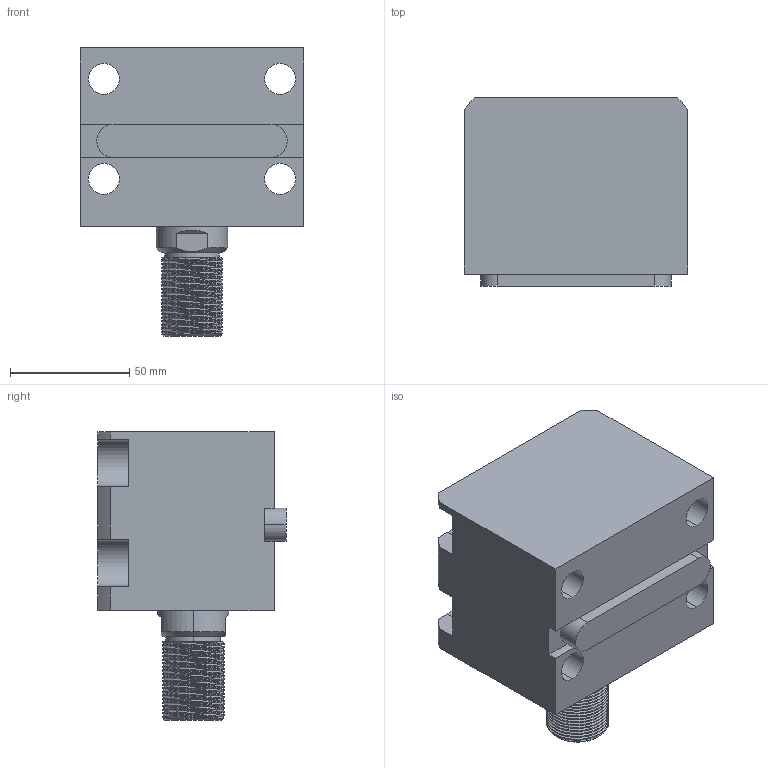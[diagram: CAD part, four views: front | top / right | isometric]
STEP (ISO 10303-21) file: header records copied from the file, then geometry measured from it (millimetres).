
FILE_DESCRIPTION (( 'STEP AP203' ), '1' );
FILE_NAME ('CHTB-LA50-15W.STEP', '2018-05-18T00:20:22', ( '' ), ( '' ), 'SwSTEP 2.0', 'SolidWorks 2015', '' );
FILE_SCHEMA (( 'CONFIG_CONTROL_DESIGN' ));
Length unit declared in the file: millimetre
Products named in the file (4): CHTB-LA50-15W; 活塞杆LA50-15W; 掛极LA50-15W; CHTM-SDMA50QG
Assembly tree (3 placements, depth 2):
  CHTB-LA50-15W
    掛极LA50-15W
    CHTM-SDMA50QG
    活塞杆LA50-15W
Bounding box: 94 x 79 x 121 mm (x, y, z)
Volume: 473643.8 mm3; surface area: 95534.6 mm2
Topology: 3 solids, 3 shells, 247 faces, 676 edges, 450 vertices
Faces by surface type: cylinder 137, plane 56, cone 22, bspline 16, torus 16
Entity records: 15118 total; most frequent: CARTESIAN_POINT 8915, ORIENTED_EDGE 1344, DIRECTION 1086, EDGE_CURVE 672, VERTEX_POINT 450, AXIS2_PLACEMENT_3D 420, EDGE_LOOP 280, ADVANCED_FACE 247
